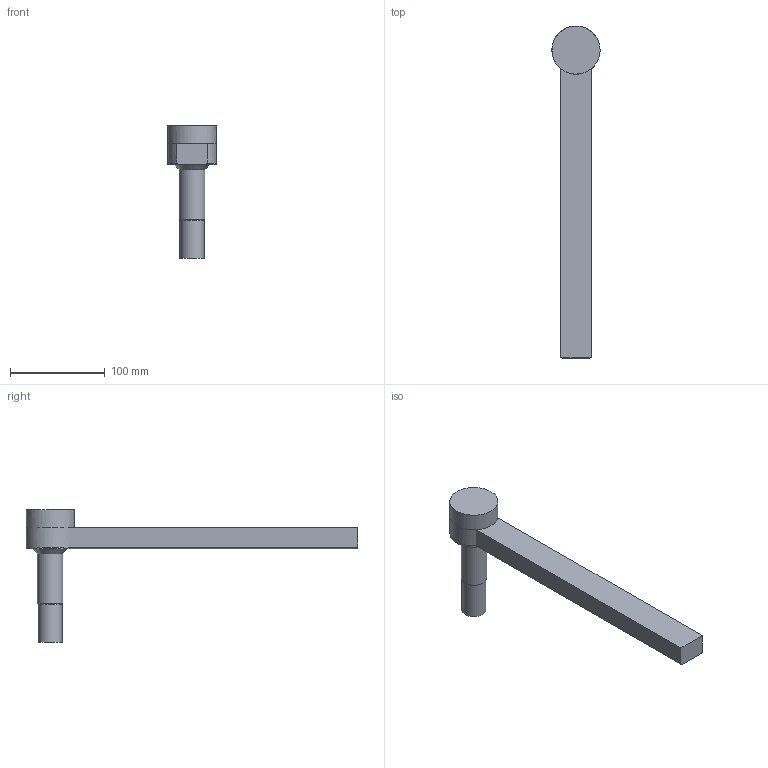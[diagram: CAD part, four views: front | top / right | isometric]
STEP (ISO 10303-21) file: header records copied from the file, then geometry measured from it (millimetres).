
FILE_DESCRIPTION(/* description */ (''),/* implementation_level */ '2;1');
FILE_NAME(/* name */ 'B0653TRUPas.stp',/* time_stamp */ '2019-10-03T08:07:57-04:00',/* author */ (''),/* organization */ (''),/* preprocessor_version */ 'ST-DEVELOPER v16',/* originating_system */ 'SIEMENS PLM Software NX 11.0',/* authorisation */ '');
FILE_SCHEMA (('AUTOMOTIVE_DESIGN { 1 0 10303 214 3 1 1 1 }'));
Length unit declared in the file: inch
Products named in the file (3): B0653TRUPd; B06XX_SubSolid; B0653TRUPas
Assembly tree (2 placements, depth 2):
  B0653TRUPas
    B06XX_SubSolid
    B0653TRUPd
Bounding box: 50.91 x 350.87 x 140.49 mm (x, y, z)
Volume: 438876.4 mm3; surface area: 69187.5 mm2
Topology: 2 solids, 3 shells, 34 faces, 72 edges, 45 vertices
Faces by surface type: plane 13, cylinder 10, cone 6, torus 3, sphere 1, revolution 1
Full cylindrical faces by diameter (mm): 8.731 x2, 25.4 x2, 26.987 x1, 50.927 x1
Entity records: 874 total; most frequent: CARTESIAN_POINT 167, DIRECTION 142, ORIENTED_EDGE 96, AXIS2_PLACEMENT_3D 62, EDGE_LOOP 54, EDGE_CURVE 48, FACE_BOUND 45, VERTEX_POINT 40
